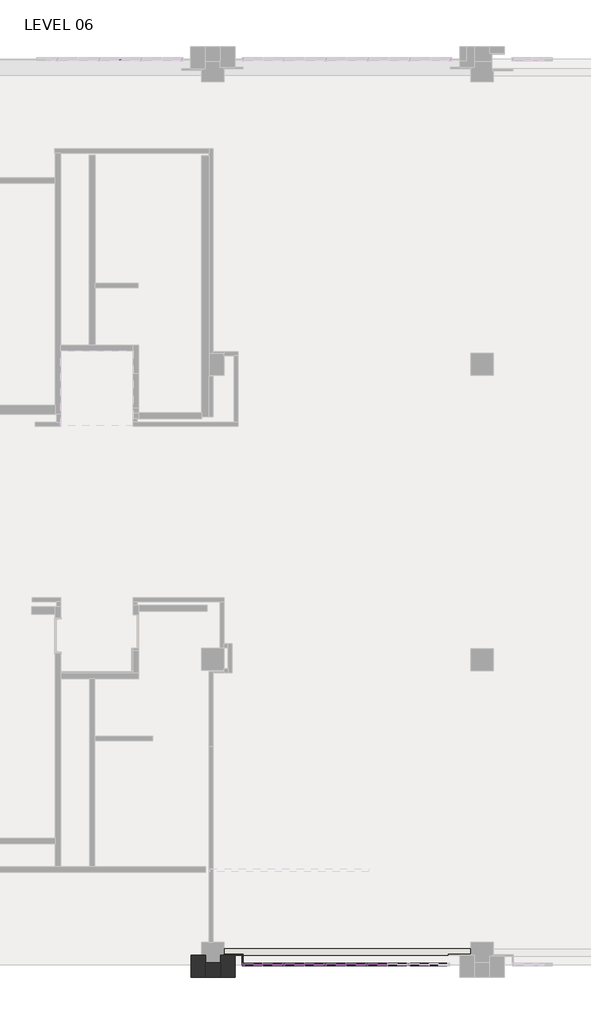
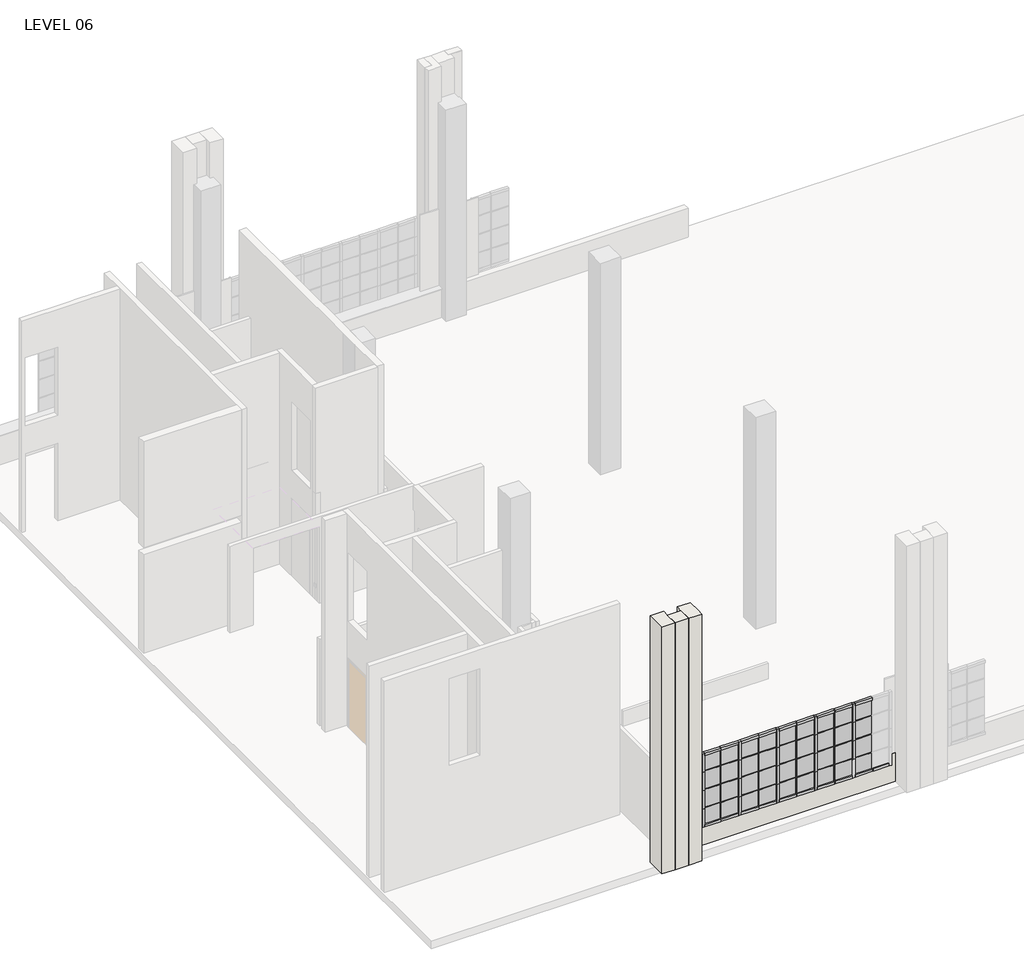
# One storey, part 3 of 16: 79 members, 36 plates, 6 walls.
"""IFC4 building model written with IfcOpenShell, lengths in millimetres."""

from ifc_helpers import new_model, si_unit, frame, origin, place, context, project, spatial, polyline, outline, extrude, faceted_brep, transform, mapped, element, save
from components import member_78bb2ef1, member_cb03ba1c, member_aa53491b, member_c1b5942e, member_9d26962d, member_378e0c06, member_17eb62f4, system_panel_glazed_79ade883, system_panel_glazed_12cc9f41, system_panel_glazed_730530c4, system_panel_glazed_b8d6571b

model = new_model("IFC4")

# Units and contexts
model_context = context("Model", 3, world=origin())
ifc_project = project(units=[si_unit("LENGTHUNIT", "METRE", prefix="MILLI")], contexts=[model_context])

# Site, building, storey
site = spatial("IfcSite", under=ifc_project)
building = spatial("IfcBuilding", under=site)
storey = spatial("IfcBuildingStorey", under=building, Name="LEVEL 06", Elevation=17449.8)

# Members
placement = place(None, origin())
member_shape = member_78bb2ef1(model_context)
element("IfcMember", 1, ObjectType="Rectangular Mullion : 1\" x 1\" - Butt Joint", at=placement, inside=storey, context=model_context, shape_type="MappedRepresentation", body=[
    mapped(member_shape, transform((-28769.7521217, -25119.8112062, 19989.8), x_axis=(1.0, 0.0, 0.0), y_axis=(0.0, -1.0, 0.0), z_axis=(0.0, 0.0, -1.0))),
])
element("IfcMember", 2, ObjectType="Rectangular Mullion : 1\" x 1\" - Butt Joint", at=placement, inside=storey, context=model_context, shape_type="MappedRepresentation", body=[
    mapped(member_shape, transform((-27631.8321217, -25119.8112062, 19989.8), x_axis=(1.0, 0.0, 0.0), y_axis=(0.0, -1.0, 0.0), z_axis=(0.0, 0.0, -1.0))),
])
element("IfcMember", 3, ObjectType="Rectangular Mullion : 1\" x 1\" - Butt Joint", at=placement, inside=storey, context=model_context, shape_type="MappedRepresentation", body=[
    mapped(member_shape, transform((-26493.9121217, -25119.8112062, 19989.8), x_axis=(1.0, 0.0, 0.0), y_axis=(0.0, -1.0, 0.0), z_axis=(0.0, 0.0, -1.0))),
])
element("IfcMember", 4, ObjectType="Rectangular Mullion : 1\" x 1\" - Butt Joint", at=placement, inside=storey, context=model_context, shape_type="MappedRepresentation", body=[
    mapped(member_shape, transform((-25355.9921217, -25119.8112062, 19989.8), x_axis=(1.0, 0.0, 0.0), y_axis=(0.0, -1.0, 0.0), z_axis=(0.0, 0.0, -1.0))),
])
member_2_shape = member_cb03ba1c(model_context)
element("IfcMember", 5, ObjectType="Rectangular Mullion : 1\" x 1\" - Butt Joint", at=placement, inside=storey, context=model_context, shape_type="MappedRepresentation", body=[
    mapped(member_2_shape, transform((-25963.0521217, -25119.8112062, 19989.8), x_axis=(0.0, 0.0, 1.0), y_axis=(0.0, -1.0, 0.0), z_axis=(1.0, 0.0, 0.0))),
])
element("IfcMember", 6, ObjectType="Rectangular Mullion : 1\" x 1\" - Butt Joint", at=placement, inside=storey, context=model_context, shape_type="MappedRepresentation", body=[
    mapped(member_2_shape, transform((-27100.9721217, -25119.8112062, 19989.8), x_axis=(0.0, 0.0, 1.0), y_axis=(0.0, -1.0, 0.0), z_axis=(1.0, 0.0, 0.0))),
])
element("IfcMember", 7, ObjectType="Rectangular Mullion : 1\" x 1\" - Butt Joint", at=placement, inside=storey, context=model_context, shape_type="MappedRepresentation", body=[
    mapped(member_2_shape, transform((-28238.8921217, -25119.8112062, 19989.8), x_axis=(0.0, 0.0, 1.0), y_axis=(0.0, -1.0, 0.0), z_axis=(1.0, 0.0, 0.0))),
])
element("IfcMember", 8, ObjectType="Rectangular Mullion : 1\" x 1\" - Butt Joint", at=placement, inside=storey, context=model_context, shape_type="MappedRepresentation", body=[
    mapped(member_2_shape, transform((-25368.6921217, -25119.8112062, 19989.8), x_axis=(0.0, 0.0, 1.0), y_axis=(0.0, -1.0, 0.0), z_axis=(1.0, 0.0, 0.0))),
])
element("IfcMember", 9, ObjectType="Rectangular Mullion : 1\" x 1\" - Butt Joint", at=placement, inside=storey, context=model_context, shape_type="MappedRepresentation", body=[
    mapped(member_2_shape, transform((-26506.6121217, -25119.8112062, 19989.8), x_axis=(0.0, 0.0, 1.0), y_axis=(0.0, -1.0, 0.0), z_axis=(1.0, 0.0, 0.0))),
])
element("IfcMember", 10, ObjectType="Rectangular Mullion : 1\" x 1\" - Butt Joint", at=placement, inside=storey, context=model_context, shape_type="MappedRepresentation", body=[
    mapped(member_2_shape, transform((-27644.5321217, -25119.8112062, 19989.8), x_axis=(0.0, 0.0, 1.0), y_axis=(0.0, -1.0, 0.0), z_axis=(1.0, 0.0, 0.0))),
])
element("IfcMember", 11, ObjectType="Rectangular Mullion : 1\" x 1\" - Butt Joint", at=placement, inside=storey, context=model_context, shape_type="MappedRepresentation", body=[
    mapped(member_2_shape, transform((-25963.0521217, -25119.8112062, 19405.6), x_axis=(0.0, 0.0, 1.0), y_axis=(0.0, -1.0, 0.0), z_axis=(1.0, 0.0, 0.0))),
])
element("IfcMember", 12, ObjectType="Rectangular Mullion : 1\" x 1\" - Butt Joint", at=placement, inside=storey, context=model_context, shape_type="MappedRepresentation", body=[
    mapped(member_2_shape, transform((-27100.9721217, -25119.8112062, 19405.6), x_axis=(0.0, 0.0, 1.0), y_axis=(0.0, -1.0, 0.0), z_axis=(1.0, 0.0, 0.0))),
])
element("IfcMember", 13, ObjectType="Rectangular Mullion : 1\" x 1\" - Butt Joint", at=placement, inside=storey, context=model_context, shape_type="MappedRepresentation", body=[
    mapped(member_2_shape, transform((-28238.8921217, -25119.8112062, 19405.6), x_axis=(0.0, 0.0, 1.0), y_axis=(0.0, -1.0, 0.0), z_axis=(1.0, 0.0, 0.0))),
])
element("IfcMember", 14, ObjectType="Rectangular Mullion : 1\" x 1\" - Butt Joint", at=placement, inside=storey, context=model_context, shape_type="MappedRepresentation", body=[
    mapped(member_2_shape, transform((-25368.6921217, -25119.8112062, 19405.6), x_axis=(0.0, 0.0, 1.0), y_axis=(0.0, -1.0, 0.0), z_axis=(1.0, 0.0, 0.0))),
])
element("IfcMember", 15, ObjectType="Rectangular Mullion : 1\" x 1\" - Butt Joint", at=placement, inside=storey, context=model_context, shape_type="MappedRepresentation", body=[
    mapped(member_2_shape, transform((-26506.6121217, -25119.8112062, 19405.6), x_axis=(0.0, 0.0, 1.0), y_axis=(0.0, -1.0, 0.0), z_axis=(1.0, 0.0, 0.0))),
])
element("IfcMember", 16, ObjectType="Rectangular Mullion : 1\" x 1\" - Butt Joint", at=placement, inside=storey, context=model_context, shape_type="MappedRepresentation", body=[
    mapped(member_2_shape, transform((-27644.5321217, -25119.8112062, 19405.6), x_axis=(0.0, 0.0, 1.0), y_axis=(0.0, -1.0, 0.0), z_axis=(1.0, 0.0, 0.0))),
])
element("IfcMember", 17, ObjectType="Rectangular Mullion : 1\" x 1\" - Butt Joint", at=placement, inside=storey, context=model_context, shape_type="MappedRepresentation", body=[
    mapped(member_2_shape, transform((-25963.0521217, -25119.8112062, 18821.4), x_axis=(0.0, 0.0, 1.0), y_axis=(0.0, -1.0, 0.0), z_axis=(1.0, 0.0, 0.0))),
])
element("IfcMember", 18, ObjectType="Rectangular Mullion : 1\" x 1\" - Butt Joint", at=placement, inside=storey, context=model_context, shape_type="MappedRepresentation", body=[
    mapped(member_2_shape, transform((-27100.9721217, -25119.8112062, 18821.4), x_axis=(0.0, 0.0, 1.0), y_axis=(0.0, -1.0, 0.0), z_axis=(1.0, 0.0, 0.0))),
])
element("IfcMember", 19, ObjectType="Rectangular Mullion : 1\" x 1\" - Butt Joint", at=placement, inside=storey, context=model_context, shape_type="MappedRepresentation", body=[
    mapped(member_2_shape, transform((-28238.8921217, -25119.8112062, 18821.4), x_axis=(0.0, 0.0, 1.0), y_axis=(0.0, -1.0, 0.0), z_axis=(1.0, 0.0, 0.0))),
])
element("IfcMember", 20, ObjectType="Rectangular Mullion : 1\" x 1\" - Butt Joint", at=placement, inside=storey, context=model_context, shape_type="MappedRepresentation", body=[
    mapped(member_2_shape, transform((-25368.6921217, -25119.8112062, 18821.4), x_axis=(0.0, 0.0, 1.0), y_axis=(0.0, -1.0, 0.0), z_axis=(1.0, 0.0, 0.0))),
])
element("IfcMember", 21, ObjectType="Rectangular Mullion : 1\" x 1\" - Butt Joint", at=placement, inside=storey, context=model_context, shape_type="MappedRepresentation", body=[
    mapped(member_2_shape, transform((-26506.6121217, -25119.8112062, 18821.4), x_axis=(0.0, 0.0, 1.0), y_axis=(0.0, -1.0, 0.0), z_axis=(1.0, 0.0, 0.0))),
])
element("IfcMember", 22, ObjectType="Rectangular Mullion : 1\" x 1\" - Butt Joint", at=placement, inside=storey, context=model_context, shape_type="MappedRepresentation", body=[
    mapped(member_2_shape, transform((-27644.5321217, -25119.8112062, 18821.4), x_axis=(0.0, 0.0, 1.0), y_axis=(0.0, -1.0, 0.0), z_axis=(1.0, 0.0, 0.0))),
])
member_3_shape = member_aa53491b(model_context)
element("IfcMember", 23, ObjectType="Rectangular Mullion : 1\" x 1\" - Butt Joint", at=placement, inside=storey, context=model_context, shape_type="MappedRepresentation", body=[
    mapped(member_3_shape, transform((-28782.4521217, -25119.8112062, 19989.8), x_axis=(0.0, 0.0, 1.0), y_axis=(0.0, -1.0, 0.0), z_axis=(1.0, 0.0, 0.0))),
])
element("IfcMember", 24, ObjectType="Rectangular Mullion : 1\" x 1\" - Butt Joint", at=placement, inside=storey, context=model_context, shape_type="MappedRepresentation", body=[
    mapped(member_3_shape, transform((-28782.4521217, -25119.8112062, 19405.6), x_axis=(0.0, 0.0, 1.0), y_axis=(0.0, -1.0, 0.0), z_axis=(1.0, 0.0, 0.0))),
])
element("IfcMember", 25, ObjectType="Rectangular Mullion : 1\" x 1\" - Butt Joint", at=placement, inside=storey, context=model_context, shape_type="MappedRepresentation", body=[
    mapped(member_3_shape, transform((-28782.4521217, -25119.8112062, 18821.4), x_axis=(0.0, 0.0, 1.0), y_axis=(0.0, -1.0, 0.0), z_axis=(1.0, 0.0, 0.0))),
])
element("IfcMember", 26, ObjectType="Rectangular Mullion : 1\" x 1\" - Butt Joint", at=placement, inside=storey, context=model_context, shape_type="MappedRepresentation", body=[
    mapped(member_shape, transform((-28769.7521217, -25119.8112062, 19405.6), x_axis=(1.0, 0.0, 0.0), y_axis=(0.0, -1.0, 0.0), z_axis=(0.0, 0.0, -1.0))),
])
element("IfcMember", 27, ObjectType="Rectangular Mullion : 1\" x 1\" - Butt Joint", at=placement, inside=storey, context=model_context, shape_type="MappedRepresentation", body=[
    mapped(member_shape, transform((-28769.7521217, -25119.8112062, 18821.4), x_axis=(1.0, 0.0, 0.0), y_axis=(0.0, -1.0, 0.0), z_axis=(0.0, 0.0, -1.0))),
])
element("IfcMember", 28, ObjectType="Rectangular Mullion : 1\" x 1\" - Butt Joint", at=placement, inside=storey, context=model_context, shape_type="MappedRepresentation", body=[
    mapped(member_shape, transform((-27631.8321217, -25119.8112062, 19405.6), x_axis=(1.0, 0.0, 0.0), y_axis=(0.0, -1.0, 0.0), z_axis=(0.0, 0.0, -1.0))),
])
element("IfcMember", 29, ObjectType="Rectangular Mullion : 1\" x 1\" - Butt Joint", at=placement, inside=storey, context=model_context, shape_type="MappedRepresentation", body=[
    mapped(member_shape, transform((-27631.8321217, -25119.8112062, 18821.4), x_axis=(1.0, 0.0, 0.0), y_axis=(0.0, -1.0, 0.0), z_axis=(0.0, 0.0, -1.0))),
])
element("IfcMember", 30, ObjectType="Rectangular Mullion : 1\" x 1\" - Butt Joint", at=placement, inside=storey, context=model_context, shape_type="MappedRepresentation", body=[
    mapped(member_shape, transform((-26493.9121217, -25119.8112062, 19405.6), x_axis=(1.0, 0.0, 0.0), y_axis=(0.0, -1.0, 0.0), z_axis=(0.0, 0.0, -1.0))),
])
element("IfcMember", 31, ObjectType="Rectangular Mullion : 1\" x 1\" - Butt Joint", at=placement, inside=storey, context=model_context, shape_type="MappedRepresentation", body=[
    mapped(member_shape, transform((-26493.9121217, -25119.8112062, 18821.4), x_axis=(1.0, 0.0, 0.0), y_axis=(0.0, -1.0, 0.0), z_axis=(0.0, 0.0, -1.0))),
])
element("IfcMember", 32, ObjectType="Rectangular Mullion : 1\" x 1\" - Butt Joint", at=placement, inside=storey, context=model_context, shape_type="MappedRepresentation", body=[
    mapped(member_shape, transform((-25355.9921217, -25119.8112062, 19405.6), x_axis=(1.0, 0.0, 0.0), y_axis=(0.0, -1.0, 0.0), z_axis=(0.0, 0.0, -1.0))),
])
element("IfcMember", 33, ObjectType="Rectangular Mullion : 1\" x 1\" - Butt Joint", at=placement, inside=storey, context=model_context, shape_type="MappedRepresentation", body=[
    mapped(member_shape, transform((-25355.9921217, -25119.8112062, 18821.4), x_axis=(1.0, 0.0, 0.0), y_axis=(0.0, -1.0, 0.0), z_axis=(0.0, 0.0, -1.0))),
])
element("IfcMember", 34, ObjectType="Rectangular Mullion : 1\" x 1\" - Butt Joint", at=placement, inside=storey, context=model_context, shape_type="MappedRepresentation", body=[
    mapped(member_shape, transform((-28769.7521217, -25119.8112062, 18237.2), x_axis=(1.0, 0.0, 0.0), y_axis=(0.0, -1.0, 0.0), z_axis=(0.0, 0.0, -1.0))),
])
element("IfcMember", 35, ObjectType="Rectangular Mullion : 1\" x 1\" - Butt Joint", at=placement, inside=storey, context=model_context, shape_type="MappedRepresentation", body=[
    mapped(member_shape, transform((-27631.8321217, -25119.8112062, 18237.2), x_axis=(1.0, 0.0, 0.0), y_axis=(0.0, -1.0, 0.0), z_axis=(0.0, 0.0, -1.0))),
])
element("IfcMember", 36, ObjectType="Rectangular Mullion : 1\" x 1\" - Butt Joint", at=placement, inside=storey, context=model_context, shape_type="MappedRepresentation", body=[
    mapped(member_shape, transform((-26493.9121217, -25119.8112062, 18237.2), x_axis=(1.0, 0.0, 0.0), y_axis=(0.0, -1.0, 0.0), z_axis=(0.0, 0.0, -1.0))),
])
element("IfcMember", 37, ObjectType="Rectangular Mullion : 1\" x 1\" - Butt Joint", at=placement, inside=storey, context=model_context, shape_type="MappedRepresentation", body=[
    mapped(member_shape, transform((-25355.9921217, -25119.8112062, 18237.2), x_axis=(1.0, 0.0, 0.0), y_axis=(0.0, -1.0, 0.0), z_axis=(0.0, 0.0, -1.0))),
])
element("IfcMember", 38, ObjectType="Rectangular Mullion : 1\" x 1\" - Butt Joint", at=placement, inside=storey, context=model_context, shape_type="MappedRepresentation", body=[
    mapped(member_shape, transform((-32667.8910374, -412.75, 19989.8), x_axis=(1.0, 0.0, 0.0), y_axis=(0.0, -1.0, 0.0), z_axis=(0.0, 0.0, -1.0))),
])
element("IfcMember", 39, ObjectType="Rectangular Mullion : 1\" x 1\" - Butt Joint", at=placement, inside=storey, context=model_context, shape_type="MappedRepresentation", body=[
    mapped(member_shape, transform((-32667.8910374, -412.75, 18821.4), x_axis=(1.0, 0.0, 0.0), y_axis=(0.0, -1.0, 0.0), z_axis=(0.0, 0.0, -1.0))),
])
element("IfcMember", 40, ObjectType="Rectangular Mullion : 1\" x 1\" - Butt Joint", at=placement, inside=storey, context=model_context, shape_type="MappedRepresentation", body=[
    mapped(member_shape, transform((-32667.8910374, -412.75, 19405.6), x_axis=(1.0, 0.0, 0.0), y_axis=(0.0, -1.0, 0.0), z_axis=(0.0, 0.0, -1.0))),
])
element("IfcMember", 41, ObjectType="Rectangular Mullion : 1\" x 1\" - Butt Joint", at=placement, inside=storey, context=model_context, shape_type="MappedRepresentation", body=[
    mapped(member_shape, transform((-32667.8910374, -412.75, 18237.2), x_axis=(1.0, 0.0, 0.0), y_axis=(0.0, -1.0, 0.0), z_axis=(0.0, 0.0, -1.0))),
])
member_4_shape = member_c1b5942e(model_context)
element("IfcMember", 42, ObjectType="Rectangular Mullion : 3\" x 3\" Window Jamb", at=placement, inside=storey, context=model_context, shape_type="MappedRepresentation", body=[
    mapped(member_4_shape, transform((-25343.2921217, -25119.8112062, 18237.2), x_axis=(0.0, 0.0, -1.0), y_axis=(0.0, -1.0, 0.0), z_axis=(-1.0, 0.0, 0.0))),
])
element("IfcMember", 43, ObjectType="Rectangular Mullion : 3\" x 3\" Window Jamb", at=placement, inside=storey, context=model_context, shape_type="MappedRepresentation", body=[
    mapped(member_4_shape, transform((-26481.2121217, -25119.8112062, 18237.2), x_axis=(0.0, 0.0, -1.0), y_axis=(0.0, -1.0, 0.0), z_axis=(-1.0, 0.0, 0.0))),
])
element("IfcMember", 44, ObjectType="Rectangular Mullion : 3\" x 3\" Window Jamb", at=placement, inside=storey, context=model_context, shape_type="MappedRepresentation", body=[
    mapped(member_4_shape, transform((-27619.1321217, -25119.8112062, 18237.2), x_axis=(0.0, 0.0, -1.0), y_axis=(0.0, -1.0, 0.0), z_axis=(-1.0, 0.0, 0.0))),
])
element("IfcMember", 45, ObjectType="Rectangular Mullion : 3\" x 3\" Window Jamb", at=placement, inside=storey, context=model_context, shape_type="MappedRepresentation", body=[
    mapped(member_4_shape, transform((-28757.0521217, -25119.8112062, 18237.2), x_axis=(0.0, 0.0, -1.0), y_axis=(0.0, -1.0, 0.0), z_axis=(-1.0, 0.0, 0.0))),
])
element("IfcMember", 46, ObjectType="Rectangular Mullion : 3\" x 3\" Window Jamb", at=placement, inside=storey, context=model_context, shape_type="MappedRepresentation", body=[
    mapped(member_4_shape, transform((-24748.9321217, -25119.8112062, 18237.2), x_axis=(0.0, 0.0, -1.0), y_axis=(0.0, -1.0, 0.0), z_axis=(-1.0, 0.0, 0.0))),
])
element("IfcMember", 47, ObjectType="Rectangular Mullion : 3\" x 3\" Window Jamb", at=placement, inside=storey, context=model_context, shape_type="MappedRepresentation", body=[
    mapped(member_4_shape, transform((-25886.8521217, -25119.8112062, 18237.2), x_axis=(0.0, 0.0, -1.0), y_axis=(0.0, -1.0, 0.0), z_axis=(-1.0, 0.0, 0.0))),
])
element("IfcMember", 48, ObjectType="Rectangular Mullion : 3\" x 3\" Window Jamb", at=placement, inside=storey, context=model_context, shape_type="MappedRepresentation", body=[
    mapped(member_4_shape, transform((-27024.7721217, -25119.8112062, 18237.2), x_axis=(0.0, 0.0, -1.0), y_axis=(0.0, -1.0, 0.0), z_axis=(-1.0, 0.0, 0.0))),
])
element("IfcMember", 49, ObjectType="Rectangular Mullion : 3\" x 3\" Window Jamb", at=placement, inside=storey, context=model_context, shape_type="MappedRepresentation", body=[
    mapped(member_4_shape, transform((-28162.6921217, -25119.8112062, 18237.2), x_axis=(0.0, 0.0, -1.0), y_axis=(0.0, -1.0, 0.0), z_axis=(-1.0, 0.0, 0.0))),
])
member_5_shape = member_9d26962d(model_context)
element("IfcMember", 50, ObjectType="Rectangular Mullion : 3\" x 3\" Window Jamb", at=placement, inside=storey, context=model_context, shape_type="MappedRepresentation", body=[
    mapped(member_5_shape, transform((-24205.3721217, -25119.8112062, 18237.2), x_axis=(0.0, 0.0, -1.0), y_axis=(0.0, -1.0, 0.0), z_axis=(-1.0, 0.0, 0.0))),
])
element("IfcMember", 51, ObjectType="Rectangular Mullion : 3\" x 3\" Window Jamb", at=placement, inside=storey, context=model_context, shape_type="MappedRepresentation", body=[
    mapped(member_5_shape, transform((-29262.5121217, -25119.8112062, 18237.2), x_axis=(0.0, 0.0, -1.0), y_axis=(0.0, -1.0, 0.0), z_axis=(-1.0, 0.0, 0.0))),
])
element("IfcMember", 52, ObjectType="Rectangular Mullion : 3\" x 3\" Window Jamb", at=placement, inside=storey, context=model_context, shape_type="MappedRepresentation", body=[
    mapped(member_5_shape, transform((-28782.4521217, -25119.8112062, 20574.0), x_axis=(0.0, 0.0, 1.0), y_axis=(0.0, -1.0, 0.0), z_axis=(1.0, 0.0, 0.0))),
])
element("IfcMember", 53, ObjectType="Rectangular Mullion : 3\" x 3\" Window Jamb", at=placement, inside=storey, context=model_context, shape_type="MappedRepresentation", body=[
    mapped(member_4_shape, transform((-24230.7721217, -25119.8112062, 20574.0), x_axis=(0.0, 0.0, 1.0), y_axis=(0.0, -1.0, 0.0), z_axis=(1.0, 0.0, 0.0))),
])
element("IfcMember", 54, ObjectType="Rectangular Mullion : 3\" x 3\" Window Jamb", at=placement, inside=storey, context=model_context, shape_type="MappedRepresentation", body=[
    mapped(member_4_shape, transform((-25368.6921217, -25119.8112062, 20574.0), x_axis=(0.0, 0.0, 1.0), y_axis=(0.0, -1.0, 0.0), z_axis=(1.0, 0.0, 0.0))),
])
element("IfcMember", 55, ObjectType="Rectangular Mullion : 3\" x 3\" Window Jamb", at=placement, inside=storey, context=model_context, shape_type="MappedRepresentation", body=[
    mapped(member_4_shape, transform((-26506.6121217, -25119.8112062, 20574.0), x_axis=(0.0, 0.0, 1.0), y_axis=(0.0, -1.0, 0.0), z_axis=(1.0, 0.0, 0.0))),
])
element("IfcMember", 56, ObjectType="Rectangular Mullion : 3\" x 3\" Window Jamb", at=placement, inside=storey, context=model_context, shape_type="MappedRepresentation", body=[
    mapped(member_4_shape, transform((-27644.5321217, -25119.8112062, 20574.0), x_axis=(0.0, 0.0, 1.0), y_axis=(0.0, -1.0, 0.0), z_axis=(1.0, 0.0, 0.0))),
])
element("IfcMember", 57, ObjectType="Rectangular Mullion : 3\" x 3\" Window Jamb", at=placement, inside=storey, context=model_context, shape_type="MappedRepresentation", body=[
    mapped(member_4_shape, transform((-24825.1321217, -25119.8112062, 20574.0), x_axis=(0.0, 0.0, 1.0), y_axis=(0.0, -1.0, 0.0), z_axis=(1.0, 0.0, 0.0))),
])
element("IfcMember", 58, ObjectType="Rectangular Mullion : 3\" x 3\" Window Jamb", at=placement, inside=storey, context=model_context, shape_type="MappedRepresentation", body=[
    mapped(member_4_shape, transform((-25963.0521217, -25119.8112062, 20574.0), x_axis=(0.0, 0.0, 1.0), y_axis=(0.0, -1.0, 0.0), z_axis=(1.0, 0.0, 0.0))),
])
element("IfcMember", 59, ObjectType="Rectangular Mullion : 3\" x 3\" Window Jamb", at=placement, inside=storey, context=model_context, shape_type="MappedRepresentation", body=[
    mapped(member_4_shape, transform((-27100.9721217, -25119.8112062, 20574.0), x_axis=(0.0, 0.0, 1.0), y_axis=(0.0, -1.0, 0.0), z_axis=(1.0, 0.0, 0.0))),
])
element("IfcMember", 60, ObjectType="Rectangular Mullion : 3\" x 3\" Window Jamb", at=placement, inside=storey, context=model_context, shape_type="MappedRepresentation", body=[
    mapped(member_4_shape, transform((-28238.8921217, -25119.8112062, 20574.0), x_axis=(0.0, 0.0, 1.0), y_axis=(0.0, -1.0, 0.0), z_axis=(1.0, 0.0, 0.0))),
])
member_6_shape = member_378e0c06(model_context)
element("IfcMember", 61, ObjectType="Rectangular Mullion : 3\" x 3\" Window Jamb", at=placement, inside=storey, context=model_context, shape_type="MappedRepresentation", body=[
    mapped(member_6_shape, transform((-28200.7921217, -25119.8112062, 19989.8), x_axis=(1.0, 0.0, 0.0), y_axis=(0.0, -1.0, 0.0), z_axis=(0.0, 0.0, -1.0))),
])
element("IfcMember", 62, ObjectType="Rectangular Mullion : 3\" x 3\" Window Jamb", at=placement, inside=storey, context=model_context, shape_type="MappedRepresentation", body=[
    mapped(member_6_shape, transform((-27062.8721217, -25119.8112062, 19989.8), x_axis=(1.0, 0.0, 0.0), y_axis=(0.0, -1.0, 0.0), z_axis=(0.0, 0.0, -1.0))),
])
element("IfcMember", 63, ObjectType="Rectangular Mullion : 3\" x 3\" Window Jamb", at=placement, inside=storey, context=model_context, shape_type="MappedRepresentation", body=[
    mapped(member_6_shape, transform((-25924.9521217, -25119.8112062, 19989.8), x_axis=(1.0, 0.0, 0.0), y_axis=(0.0, -1.0, 0.0), z_axis=(0.0, 0.0, -1.0))),
])
element("IfcMember", 64, ObjectType="Rectangular Mullion : 3\" x 3\" Window Jamb", at=placement, inside=storey, context=model_context, shape_type="MappedRepresentation", body=[
    mapped(member_6_shape, transform((-24787.0321217, -25119.8112062, 19989.8), x_axis=(1.0, 0.0, 0.0), y_axis=(0.0, -1.0, 0.0), z_axis=(0.0, 0.0, -1.0))),
])
member_7_shape = member_17eb62f4(model_context)
element("IfcMember", 65, ObjectType="Rectangular Mullion : 3\" x 3\" Window Jamb", at=placement, inside=storey, context=model_context, shape_type="MappedRepresentation", body=[
    mapped(member_7_shape, transform((-29338.7121217, -25119.8112062, 20574.0), x_axis=(-1.0, 0.0, 0.0), y_axis=(0.0, -1.0, 0.0), z_axis=(0.0, 0.0, 1.0))),
])
element("IfcMember", 66, ObjectType="Rectangular Mullion : 3\" x 3\" Window Jamb", at=placement, inside=storey, context=model_context, shape_type="MappedRepresentation", body=[
    mapped(member_6_shape, transform((-28200.7921217, -25119.8112062, 19405.6), x_axis=(1.0, 0.0, 0.0), y_axis=(0.0, -1.0, 0.0), z_axis=(0.0, 0.0, -1.0))),
])
element("IfcMember", 67, ObjectType="Rectangular Mullion : 3\" x 3\" Window Jamb", at=placement, inside=storey, context=model_context, shape_type="MappedRepresentation", body=[
    mapped(member_6_shape, transform((-28200.7921217, -25119.8112062, 18821.4), x_axis=(1.0, 0.0, 0.0), y_axis=(0.0, -1.0, 0.0), z_axis=(0.0, 0.0, -1.0))),
])
element("IfcMember", 68, ObjectType="Rectangular Mullion : 3\" x 3\" Window Jamb", at=placement, inside=storey, context=model_context, shape_type="MappedRepresentation", body=[
    mapped(member_6_shape, transform((-27062.8721217, -25119.8112062, 19405.6), x_axis=(1.0, 0.0, 0.0), y_axis=(0.0, -1.0, 0.0), z_axis=(0.0, 0.0, -1.0))),
])
element("IfcMember", 69, ObjectType="Rectangular Mullion : 3\" x 3\" Window Jamb", at=placement, inside=storey, context=model_context, shape_type="MappedRepresentation", body=[
    mapped(member_6_shape, transform((-27062.8721217, -25119.8112062, 18821.4), x_axis=(1.0, 0.0, 0.0), y_axis=(0.0, -1.0, 0.0), z_axis=(0.0, 0.0, -1.0))),
])
element("IfcMember", 70, ObjectType="Rectangular Mullion : 3\" x 3\" Window Jamb", at=placement, inside=storey, context=model_context, shape_type="MappedRepresentation", body=[
    mapped(member_6_shape, transform((-25924.9521217, -25119.8112062, 19405.6), x_axis=(1.0, 0.0, 0.0), y_axis=(0.0, -1.0, 0.0), z_axis=(0.0, 0.0, -1.0))),
])
element("IfcMember", 71, ObjectType="Rectangular Mullion : 3\" x 3\" Window Jamb", at=placement, inside=storey, context=model_context, shape_type="MappedRepresentation", body=[
    mapped(member_6_shape, transform((-25924.9521217, -25119.8112062, 18821.4), x_axis=(1.0, 0.0, 0.0), y_axis=(0.0, -1.0, 0.0), z_axis=(0.0, 0.0, -1.0))),
])
element("IfcMember", 72, ObjectType="Rectangular Mullion : 3\" x 3\" Window Jamb", at=placement, inside=storey, context=model_context, shape_type="MappedRepresentation", body=[
    mapped(member_6_shape, transform((-24787.0321217, -25119.8112062, 19405.6), x_axis=(1.0, 0.0, 0.0), y_axis=(0.0, -1.0, 0.0), z_axis=(0.0, 0.0, -1.0))),
])
element("IfcMember", 73, ObjectType="Rectangular Mullion : 3\" x 3\" Window Jamb", at=placement, inside=storey, context=model_context, shape_type="MappedRepresentation", body=[
    mapped(member_6_shape, transform((-24787.0321217, -25119.8112062, 18821.4), x_axis=(1.0, 0.0, 0.0), y_axis=(0.0, -1.0, 0.0), z_axis=(0.0, 0.0, -1.0))),
])
element("IfcMember", 74, ObjectType="Rectangular Mullion : 3\" x 3\" Window Jamb", at=placement, inside=storey, context=model_context, shape_type="MappedRepresentation", body=[
    mapped(member_7_shape, transform((-29338.7121217, -25119.8112062, 19989.8), x_axis=(-1.0, 0.0, 0.0), y_axis=(0.0, -1.0, 0.0), z_axis=(0.0, 0.0, 1.0))),
])
element("IfcMember", 75, ObjectType="Rectangular Mullion : 3\" x 3\" Window Jamb", at=placement, inside=storey, context=model_context, shape_type="MappedRepresentation", body=[
    mapped(member_7_shape, transform((-29338.7121217, -25119.8112062, 19405.6), x_axis=(-1.0, 0.0, 0.0), y_axis=(0.0, -1.0, 0.0), z_axis=(0.0, 0.0, 1.0))),
])
element("IfcMember", 76, ObjectType="Rectangular Mullion : 3\" x 3\" Window Jamb", at=placement, inside=storey, context=model_context, shape_type="MappedRepresentation", body=[
    mapped(member_6_shape, transform((-28200.7921217, -25119.8112062, 18237.2), x_axis=(1.0, 0.0, 0.0), y_axis=(0.0, -1.0, 0.0), z_axis=(0.0, 0.0, -1.0))),
])
element("IfcMember", 77, ObjectType="Rectangular Mullion : 3\" x 3\" Window Jamb", at=placement, inside=storey, context=model_context, shape_type="MappedRepresentation", body=[
    mapped(member_6_shape, transform((-27062.8721217, -25119.8112062, 18237.2), x_axis=(1.0, 0.0, 0.0), y_axis=(0.0, -1.0, 0.0), z_axis=(0.0, 0.0, -1.0))),
])
element("IfcMember", 78, ObjectType="Rectangular Mullion : 3\" x 3\" Window Jamb", at=placement, inside=storey, context=model_context, shape_type="MappedRepresentation", body=[
    mapped(member_6_shape, transform((-25924.9521217, -25119.8112062, 18237.2), x_axis=(1.0, 0.0, 0.0), y_axis=(0.0, -1.0, 0.0), z_axis=(0.0, 0.0, -1.0))),
])
element("IfcMember", 79, ObjectType="Rectangular Mullion : 3\" x 3\" Window Jamb", at=placement, inside=storey, context=model_context, shape_type="MappedRepresentation", body=[
    mapped(member_7_shape, transform((-29338.7121217, -25119.8112062, 18821.4), x_axis=(-1.0, 0.0, 0.0), y_axis=(0.0, -1.0, 0.0), z_axis=(0.0, 0.0, 1.0))),
])

# Plates
system_panel_glazed_shape = system_panel_glazed_79ade883(model_context)
element("IfcPlate", 80, ObjectType="System Panel : Glazed", at=placement, inside=storey, context=model_context, shape_type="MappedRepresentation", body=[
    mapped(system_panel_glazed_shape, transform((-29022.4821217, -25119.8112062, 18313.4), x_axis=(1.0, 0.0, 0.0), y_axis=(0.0, 1.0, 0.0), z_axis=(0.0, 0.0, 1.0))),
])
element("IfcPlate", 81, ObjectType="System Panel : Glazed", at=placement, inside=storey, context=model_context, shape_type="MappedRepresentation", body=[
    mapped(system_panel_glazed_shape, transform((-29022.4821217, -25119.8112062, 20002.5), x_axis=(1.0, 0.0, 0.0), y_axis=(0.0, 1.0, 0.0), z_axis=(0.0, 0.0, 1.0))),
])
system_panel_glazed_2_shape = system_panel_glazed_12cc9f41(model_context)
element("IfcPlate", 82, ObjectType="System Panel : Glazed", at=placement, inside=storey, context=model_context, shape_type="MappedRepresentation", body=[
    mapped(system_panel_glazed_2_shape, transform((-27903.6121217, -25119.8112062, 18313.4), x_axis=(1.0, 0.0, 0.0), y_axis=(0.0, 1.0, 0.0), z_axis=(0.0, 0.0, 1.0))),
])
element("IfcPlate", 83, ObjectType="System Panel : Glazed", at=placement, inside=storey, context=model_context, shape_type="MappedRepresentation", body=[
    mapped(system_panel_glazed_2_shape, transform((-26765.6921217, -25119.8112062, 18313.4), x_axis=(1.0, 0.0, 0.0), y_axis=(0.0, 1.0, 0.0), z_axis=(0.0, 0.0, 1.0))),
])
element("IfcPlate", 84, ObjectType="System Panel : Glazed", at=placement, inside=storey, context=model_context, shape_type="MappedRepresentation", body=[
    mapped(system_panel_glazed_2_shape, transform((-25627.7721217, -25119.8112062, 18313.4), x_axis=(1.0, 0.0, 0.0), y_axis=(0.0, 1.0, 0.0), z_axis=(0.0, 0.0, 1.0))),
])
element("IfcPlate", 85, ObjectType="System Panel : Glazed", at=placement, inside=storey, context=model_context, shape_type="MappedRepresentation", body=[
    mapped(system_panel_glazed_2_shape, transform((-24489.8521217, -25119.8112062, 18313.4), x_axis=(1.0, 0.0, 0.0), y_axis=(0.0, 1.0, 0.0), z_axis=(0.0, 0.0, 1.0))),
])
element("IfcPlate", 86, ObjectType="System Panel : Glazed", at=placement, inside=storey, context=model_context, shape_type="MappedRepresentation", body=[
    mapped(system_panel_glazed_2_shape, transform((-27903.6121217, -25119.8112062, 20002.5), x_axis=(1.0, 0.0, 0.0), y_axis=(0.0, 1.0, 0.0), z_axis=(0.0, 0.0, 1.0))),
])
element("IfcPlate", 87, ObjectType="System Panel : Glazed", at=placement, inside=storey, context=model_context, shape_type="MappedRepresentation", body=[
    mapped(system_panel_glazed_2_shape, transform((-26765.6921217, -25119.8112062, 20002.5), x_axis=(1.0, 0.0, 0.0), y_axis=(0.0, 1.0, 0.0), z_axis=(0.0, 0.0, 1.0))),
])
element("IfcPlate", 88, ObjectType="System Panel : Glazed", at=placement, inside=storey, context=model_context, shape_type="MappedRepresentation", body=[
    mapped(system_panel_glazed_2_shape, transform((-25627.7721217, -25119.8112062, 20002.5), x_axis=(1.0, 0.0, 0.0), y_axis=(0.0, 1.0, 0.0), z_axis=(0.0, 0.0, 1.0))),
])
element("IfcPlate", 89, ObjectType="System Panel : Glazed", at=placement, inside=storey, context=model_context, shape_type="MappedRepresentation", body=[
    mapped(system_panel_glazed_2_shape, transform((-24489.8521217, -25119.8112062, 20002.5), x_axis=(1.0, 0.0, 0.0), y_axis=(0.0, 1.0, 0.0), z_axis=(0.0, 0.0, 1.0))),
])
element("IfcPlate", 90, ObjectType="System Panel : Glazed", at=placement, inside=storey, context=model_context, shape_type="MappedRepresentation", body=[
    mapped(system_panel_glazed_2_shape, transform((-28497.9721217, -25119.8112062, 18313.4), x_axis=(1.0, 0.0, 0.0), y_axis=(0.0, 1.0, 0.0), z_axis=(0.0, 0.0, 1.0))),
])
element("IfcPlate", 91, ObjectType="System Panel : Glazed", at=placement, inside=storey, context=model_context, shape_type="MappedRepresentation", body=[
    mapped(system_panel_glazed_2_shape, transform((-28497.9721217, -25119.8112062, 20002.5), x_axis=(1.0, 0.0, 0.0), y_axis=(0.0, 1.0, 0.0), z_axis=(0.0, 0.0, 1.0))),
])
element("IfcPlate", 92, ObjectType="System Panel : Glazed", at=placement, inside=storey, context=model_context, shape_type="MappedRepresentation", body=[
    mapped(system_panel_glazed_2_shape, transform((-27360.0521217, -25119.8112062, 18313.4), x_axis=(1.0, 0.0, 0.0), y_axis=(0.0, 1.0, 0.0), z_axis=(0.0, 0.0, 1.0))),
])
element("IfcPlate", 93, ObjectType="System Panel : Glazed", at=placement, inside=storey, context=model_context, shape_type="MappedRepresentation", body=[
    mapped(system_panel_glazed_2_shape, transform((-27360.0521217, -25119.8112062, 20002.5), x_axis=(1.0, 0.0, 0.0), y_axis=(0.0, 1.0, 0.0), z_axis=(0.0, 0.0, 1.0))),
])
element("IfcPlate", 94, ObjectType="System Panel : Glazed", at=placement, inside=storey, context=model_context, shape_type="MappedRepresentation", body=[
    mapped(system_panel_glazed_2_shape, transform((-26222.1321217, -25119.8112062, 18313.4), x_axis=(1.0, 0.0, 0.0), y_axis=(0.0, 1.0, 0.0), z_axis=(0.0, 0.0, 1.0))),
])
element("IfcPlate", 95, ObjectType="System Panel : Glazed", at=placement, inside=storey, context=model_context, shape_type="MappedRepresentation", body=[
    mapped(system_panel_glazed_2_shape, transform((-26222.1321217, -25119.8112062, 20002.5), x_axis=(1.0, 0.0, 0.0), y_axis=(0.0, 1.0, 0.0), z_axis=(0.0, 0.0, 1.0))),
])
element("IfcPlate", 96, ObjectType="System Panel : Glazed", at=placement, inside=storey, context=model_context, shape_type="MappedRepresentation", body=[
    mapped(system_panel_glazed_2_shape, transform((-25084.2121217, -25119.8112062, 18313.4), x_axis=(1.0, 0.0, 0.0), y_axis=(0.0, 1.0, 0.0), z_axis=(0.0, 0.0, 1.0))),
])
element("IfcPlate", 97, ObjectType="System Panel : Glazed", at=placement, inside=storey, context=model_context, shape_type="MappedRepresentation", body=[
    mapped(system_panel_glazed_2_shape, transform((-25084.2121217, -25119.8112062, 20002.5), x_axis=(1.0, 0.0, 0.0), y_axis=(0.0, 1.0, 0.0), z_axis=(0.0, 0.0, 1.0))),
])
system_panel_glazed_3_shape = system_panel_glazed_730530c4(model_context)
element("IfcPlate", 98, ObjectType="System Panel : Glazed", at=placement, inside=storey, context=model_context, shape_type="MappedRepresentation", body=[
    mapped(system_panel_glazed_3_shape, transform((-29022.4821217, -25119.8112062, 18834.1), x_axis=(1.0, 0.0, 0.0), y_axis=(0.0, 1.0, 0.0), z_axis=(0.0, 0.0, 1.0))),
])
element("IfcPlate", 99, ObjectType="System Panel : Glazed", at=placement, inside=storey, context=model_context, shape_type="MappedRepresentation", body=[
    mapped(system_panel_glazed_3_shape, transform((-29022.4821217, -25119.8112062, 19418.3), x_axis=(1.0, 0.0, 0.0), y_axis=(0.0, 1.0, 0.0), z_axis=(0.0, 0.0, 1.0))),
])
system_panel_glazed_4_shape = system_panel_glazed_b8d6571b(model_context)
element("IfcPlate", 100, ObjectType="System Panel : Glazed", at=placement, inside=storey, context=model_context, shape_type="MappedRepresentation", body=[
    mapped(system_panel_glazed_4_shape, transform((-27903.6121217, -25119.8112062, 18834.1), x_axis=(1.0, 0.0, 0.0), y_axis=(0.0, 1.0, 0.0), z_axis=(0.0, 0.0, 1.0))),
])
element("IfcPlate", 101, ObjectType="System Panel : Glazed", at=placement, inside=storey, context=model_context, shape_type="MappedRepresentation", body=[
    mapped(system_panel_glazed_4_shape, transform((-26765.6921217, -25119.8112062, 18834.1), x_axis=(1.0, 0.0, 0.0), y_axis=(0.0, 1.0, 0.0), z_axis=(0.0, 0.0, 1.0))),
])
element("IfcPlate", 102, ObjectType="System Panel : Glazed", at=placement, inside=storey, context=model_context, shape_type="MappedRepresentation", body=[
    mapped(system_panel_glazed_4_shape, transform((-25627.7721217, -25119.8112062, 18834.1), x_axis=(1.0, 0.0, 0.0), y_axis=(0.0, 1.0, 0.0), z_axis=(0.0, 0.0, 1.0))),
])
element("IfcPlate", 103, ObjectType="System Panel : Glazed", at=placement, inside=storey, context=model_context, shape_type="MappedRepresentation", body=[
    mapped(system_panel_glazed_4_shape, transform((-24489.8521217, -25119.8112062, 18834.1), x_axis=(1.0, 0.0, 0.0), y_axis=(0.0, 1.0, 0.0), z_axis=(0.0, 0.0, 1.0))),
])
element("IfcPlate", 104, ObjectType="System Panel : Glazed", at=placement, inside=storey, context=model_context, shape_type="MappedRepresentation", body=[
    mapped(system_panel_glazed_4_shape, transform((-27903.6121217, -25119.8112062, 19418.3), x_axis=(1.0, 0.0, 0.0), y_axis=(0.0, 1.0, 0.0), z_axis=(0.0, 0.0, 1.0))),
])
element("IfcPlate", 105, ObjectType="System Panel : Glazed", at=placement, inside=storey, context=model_context, shape_type="MappedRepresentation", body=[
    mapped(system_panel_glazed_4_shape, transform((-26765.6921217, -25119.8112062, 19418.3), x_axis=(1.0, 0.0, 0.0), y_axis=(0.0, 1.0, 0.0), z_axis=(0.0, 0.0, 1.0))),
])
element("IfcPlate", 106, ObjectType="System Panel : Glazed", at=placement, inside=storey, context=model_context, shape_type="MappedRepresentation", body=[
    mapped(system_panel_glazed_4_shape, transform((-25627.7721217, -25119.8112062, 19418.3), x_axis=(1.0, 0.0, 0.0), y_axis=(0.0, 1.0, 0.0), z_axis=(0.0, 0.0, 1.0))),
])
element("IfcPlate", 107, ObjectType="System Panel : Glazed", at=placement, inside=storey, context=model_context, shape_type="MappedRepresentation", body=[
    mapped(system_panel_glazed_4_shape, transform((-24489.8521217, -25119.8112062, 19418.3), x_axis=(1.0, 0.0, 0.0), y_axis=(0.0, 1.0, 0.0), z_axis=(0.0, 0.0, 1.0))),
])
element("IfcPlate", 108, ObjectType="System Panel : Glazed", at=placement, inside=storey, context=model_context, shape_type="MappedRepresentation", body=[
    mapped(system_panel_glazed_4_shape, transform((-28497.9721217, -25119.8112062, 18834.1), x_axis=(1.0, 0.0, 0.0), y_axis=(0.0, 1.0, 0.0), z_axis=(0.0, 0.0, 1.0))),
])
element("IfcPlate", 109, ObjectType="System Panel : Glazed", at=placement, inside=storey, context=model_context, shape_type="MappedRepresentation", body=[
    mapped(system_panel_glazed_4_shape, transform((-28497.9721217, -25119.8112062, 19418.3), x_axis=(1.0, 0.0, 0.0), y_axis=(0.0, 1.0, 0.0), z_axis=(0.0, 0.0, 1.0))),
])
element("IfcPlate", 110, ObjectType="System Panel : Glazed", at=placement, inside=storey, context=model_context, shape_type="MappedRepresentation", body=[
    mapped(system_panel_glazed_4_shape, transform((-27360.0521217, -25119.8112062, 18834.1), x_axis=(1.0, 0.0, 0.0), y_axis=(0.0, 1.0, 0.0), z_axis=(0.0, 0.0, 1.0))),
])
element("IfcPlate", 111, ObjectType="System Panel : Glazed", at=placement, inside=storey, context=model_context, shape_type="MappedRepresentation", body=[
    mapped(system_panel_glazed_4_shape, transform((-27360.0521217, -25119.8112062, 19418.3), x_axis=(1.0, 0.0, 0.0), y_axis=(0.0, 1.0, 0.0), z_axis=(0.0, 0.0, 1.0))),
])
element("IfcPlate", 112, ObjectType="System Panel : Glazed", at=placement, inside=storey, context=model_context, shape_type="MappedRepresentation", body=[
    mapped(system_panel_glazed_4_shape, transform((-26222.1321217, -25119.8112062, 18834.1), x_axis=(1.0, 0.0, 0.0), y_axis=(0.0, 1.0, 0.0), z_axis=(0.0, 0.0, 1.0))),
])
element("IfcPlate", 113, ObjectType="System Panel : Glazed", at=placement, inside=storey, context=model_context, shape_type="MappedRepresentation", body=[
    mapped(system_panel_glazed_4_shape, transform((-26222.1321217, -25119.8112062, 19418.3), x_axis=(1.0, 0.0, 0.0), y_axis=(0.0, 1.0, 0.0), z_axis=(0.0, 0.0, 1.0))),
])
element("IfcPlate", 114, ObjectType="System Panel : Glazed", at=placement, inside=storey, context=model_context, shape_type="MappedRepresentation", body=[
    mapped(system_panel_glazed_4_shape, transform((-25084.2121217, -25119.8112062, 18834.1), x_axis=(1.0, 0.0, 0.0), y_axis=(0.0, 1.0, 0.0), z_axis=(0.0, 0.0, 1.0))),
])
element("IfcPlate", 115, ObjectType="System Panel : Glazed", at=placement, inside=storey, context=model_context, shape_type="MappedRepresentation", body=[
    mapped(system_panel_glazed_4_shape, transform((-25084.2121217, -25119.8112062, 19418.3), x_axis=(1.0, 0.0, 0.0), y_axis=(0.0, 1.0, 0.0), z_axis=(0.0, 0.0, 1.0))),
])

# Walls
element("IfcWall", 116, ObjectType="Generic Exterior - Brick Three Wythe", at=placement, inside=storey, context=model_context, shape_type="Brep", body=[
    faceted_brep([(-29922.7089217, -24881.6862062, 17449.8), (-29922.7089217, -25084.033955, 17449.8), (-29922.7089217, -25484.083955, 17449.8), (-29922.7089217, -25484.083955, 25273.0), (-29922.7089217, -25084.033955, 25273.0), (-29922.7089217, -24881.6862062, 25273.0), (-29922.7089217, -24881.6862062, 24155.4), (-29522.6589217, -24881.6862062, 17449.8), (-29522.6589217, -24881.6862062, 25273.0), (-29522.6589217, -25281.7362062, 25273.0), (-29522.6589217, -25484.083955, 25273.0), (-29522.6589217, -25484.083955, 17449.8), (-29827.1349596, -24881.6862062, 17449.8)], [[[0, 1, 2, 3, 4, 5, 6]], [[7, 8, 9, 10, 11]], [[2, 1, 0, 12, 7, 11]], [[5, 4, 3, 10, 9, 8]], [[0, 6, 5, 8, 7, 12]], [[3, 2, 11, 10]]]),
])
element("IfcWall", 117, ObjectType="Generic Exterior - Brick Three Wythe", at=placement, inside=storey, context=model_context, shape_type="Brep", body=[
    faceted_brep([(-29922.7089217, -25084.033955, 17449.8), (-30327.2082298, -25084.033955, 17449.8), (-30327.2082298, -25084.033955, 24155.4), (-30327.2082298, -25084.033955, 25273.0), (-29922.7089217, -25084.033955, 25273.0), (-29922.7089217, -25084.033955, 24155.4), (-29922.7089217, -25484.083955, 17449.8), (-29922.7089217, -25484.083955, 25273.0), (-30327.2082298, -25484.083955, 25273.0), (-30327.2082298, -25484.083955, 17449.8)], [[[0, 1, 2, 3, 4, 5]], [[6, 7, 8, 9]], [[1, 0, 6, 9]], [[4, 3, 8, 7]], [[0, 5, 4, 7, 6]], [[3, 2, 1, 9, 8]]]),
])
element("IfcWall", 118, ObjectType="Generic Exterior - Brick Three Wythe", at=placement, inside=storey, context=model_context, shape_type="Brep", body=[
    faceted_brep([(-30327.2082298, -25484.083955, 17449.8), (-30327.2082298, -25084.033955, 17449.8), (-30327.2082298, -24880.833955, 17449.8), (-30327.2082298, -24880.833955, 24155.4), (-30327.2082298, -24880.833955, 25273.0), (-30327.2082298, -25084.033955, 25273.0), (-30327.2082298, -25484.083955, 25273.0), (-30727.2582298, -25484.083955, 17449.8), (-30727.2582298, -25484.083955, 25273.0), (-30727.2582298, -25280.883955, 25273.0), (-30727.2582298, -24880.833955, 25273.0), (-30727.2582298, -24880.833955, 17449.8), (-30436.7349596, -24880.833955, 17449.8)], [[[0, 1, 2, 3, 4, 5, 6]], [[7, 8, 9, 10, 11]], [[2, 1, 0, 7, 11, 12]], [[6, 5, 4, 10, 9, 8]], [[0, 6, 8, 7]], [[4, 3, 2, 12, 11, 10]]]),
])
element("IfcWall", 119, ObjectType="Partition A6_", at=placement, inside=storey, context=model_context, shape_type="SweptSolid", body=[
    extrude(outline(polyline([(-29827.1349596, -24697.5362062), (-23077.0849596, -24697.5362062), (-23077.0849596, -24881.6862062), (-29827.1349596, -24881.6862062), (-29827.1349596, -24697.5362062)])), frame((0.0, 0.0, 17449.8), z_axis=(0.0, 0.0, 1.0), x_axis=(1.0, 0.0, 0.0)), (0.0, 0.0, 1.0), 914.4),
])
element("IfcWall", 120, ObjectType="Partition F0_", at=placement, inside=storey, context=model_context, shape_type="Brep", body=[
    faceted_brep([(-29827.1349596, -24881.6862062, 18364.2), (-29338.7121217, -24881.6862062, 18364.2), (-29303.7871217, -24881.6862062, 18364.2), (-29303.7871217, -24881.6862062, 20802.6), (-29338.7121217, -24881.6862062, 20802.6), (-29827.1349596, -24881.6862062, 20802.6), (-29827.1349596, -24846.7612062, 18364.2), (-29827.1349596, -24846.7612062, 20802.6), (-29303.7871217, -24846.7612062, 20802.6), (-29303.7871217, -24846.7612062, 18364.2)], [[[0, 1, 2, 3, 4, 5]], [[6, 7, 8, 9]], [[2, 1, 0, 6, 9]], [[5, 4, 3, 8, 7]], [[0, 5, 7, 6]], [[3, 2, 9, 8]]]),
])
element("IfcWall", 121, ObjectType="Partition F0_", at=placement, inside=storey, context=model_context, shape_type="SweptSolid", body=[
    extrude(outline(polyline([(-29338.7121217, -25081.7112062), (-29338.7121217, -24881.6862062), (-29303.7871217, -24881.6862062), (-29303.7871217, -25081.7112062), (-29338.7121217, -25081.7112062)])), frame((0.0, 0.0, 18364.2), z_axis=(0.0, 0.0, 1.0), x_axis=(1.0, 0.0, 0.0)), (0.0, 0.0, 1.0), 2438.4),
])

save(model, "model.ifc")
